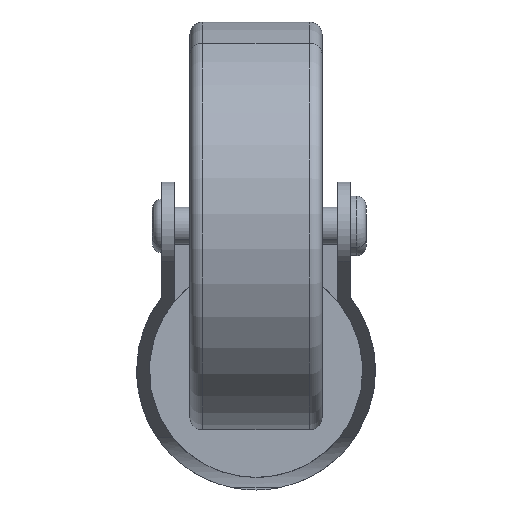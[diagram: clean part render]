
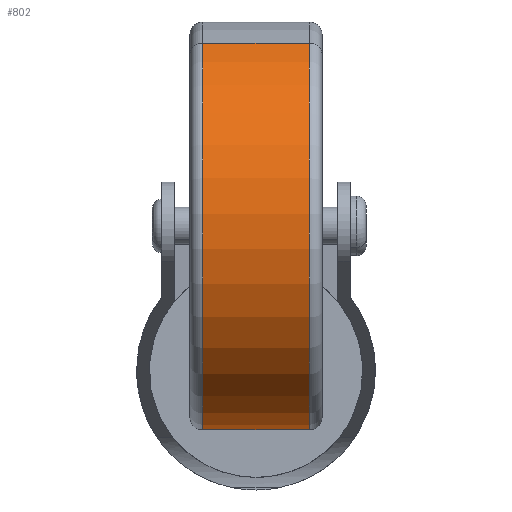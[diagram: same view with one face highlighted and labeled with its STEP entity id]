
A CAD part, front view. The second image highlights one B-rep face of the part: STEP entity #802.
In plain terms, the highlighted cylindrical face has radius 32.5 mm (diameter 65 mm), a partial arc.
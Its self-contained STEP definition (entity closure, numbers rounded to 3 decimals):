
#19 = VECTOR ( 'NONE', #1468, 1000. ) ;
#104 = AXIS2_PLACEMENT_3D ( 'NONE', #859, #2123, #565 ) ;
#129 = CARTESIAN_POINT ( 'NONE',  ( 8.5, 0., 32.5 ) ) ;
#156 = VECTOR ( 'NONE', #1507, 1000. ) ;
#198 = DIRECTION ( 'NONE',  ( 0., 0., -1. ) ) ;
#275 = CYLINDRICAL_SURFACE ( 'NONE', #778, 32.5 ) ;
#351 = VERTEX_POINT ( 'NONE', #930 ) ;
#541 = VERTEX_POINT ( 'NONE', #1180 ) ;
#565 = DIRECTION ( 'NONE',  ( 0., 0., -1. ) ) ;
#583 = EDGE_CURVE ( 'NONE', #541, #1113, #864, .T. ) ;
#778 = AXIS2_PLACEMENT_3D ( 'NONE', #1504, #931, #2589 ) ;
#802 = ADVANCED_FACE ( 'NONE', ( #2144 ), #275, .T. ) ;
#859 = CARTESIAN_POINT ( 'NONE',  ( 8.5, 0., 0. ) ) ;
#864 = CIRCLE ( 'NONE', #2136, 32.5 ) ;
#930 = CARTESIAN_POINT ( 'NONE',  ( 8.5, 0., -32.5 ) ) ;
#931 = DIRECTION ( 'NONE',  ( -1., 0., 0. ) ) ;
#1031 = ORIENTED_EDGE ( 'NONE', *, *, #583, .T. ) ;
#1055 = CARTESIAN_POINT ( 'NONE',  ( 10.5, 0., 32.5 ) ) ;
#1113 = VERTEX_POINT ( 'NONE', #1510 ) ;
#1163 = ORIENTED_EDGE ( 'NONE', *, *, #1858, .T. ) ;
#1180 = CARTESIAN_POINT ( 'NONE',  ( -8.5, 0., 32.5 ) ) ;
#1441 = ORIENTED_EDGE ( 'NONE', *, *, #1674, .F. ) ;
#1468 = DIRECTION ( 'NONE',  ( -1., 0., 0. ) ) ;
#1482 = LINE ( 'NONE', #1055, #156 ) ;
#1504 = CARTESIAN_POINT ( 'NONE',  ( 10.5, 0., 0. ) ) ;
#1507 = DIRECTION ( 'NONE',  ( -1., 0., 0. ) ) ;
#1510 = CARTESIAN_POINT ( 'NONE',  ( -8.5, 0., -32.5 ) ) ;
#1563 = CARTESIAN_POINT ( 'NONE',  ( 10.5, 0., -32.5 ) ) ;
#1674 = EDGE_CURVE ( 'NONE', #351, #1113, #1797, .T. ) ;
#1797 = LINE ( 'NONE', #1563, #19 ) ;
#1858 = EDGE_CURVE ( 'NONE', #351, #2558, #2057, .T. ) ;
#2020 = DIRECTION ( 'NONE',  ( 1., 0., 0. ) ) ;
#2057 = CIRCLE ( 'NONE', #104, 32.5 ) ;
#2063 = CARTESIAN_POINT ( 'NONE',  ( -8.5, 0., 0. ) ) ;
#2103 = ORIENTED_EDGE ( 'NONE', *, *, #2472, .T. ) ;
#2123 = DIRECTION ( 'NONE',  ( -1., 0., 0. ) ) ;
#2136 = AXIS2_PLACEMENT_3D ( 'NONE', #2063, #2020, #198 ) ;
#2144 = FACE_OUTER_BOUND ( 'NONE', #2233, .T. ) ;
#2233 = EDGE_LOOP ( 'NONE', ( #1441, #1163, #2103, #1031 ) ) ;
#2472 = EDGE_CURVE ( 'NONE', #2558, #541, #1482, .T. ) ;
#2558 = VERTEX_POINT ( 'NONE', #129 ) ;
#2589 = DIRECTION ( 'NONE',  ( 0., 0., 1. ) ) ;
